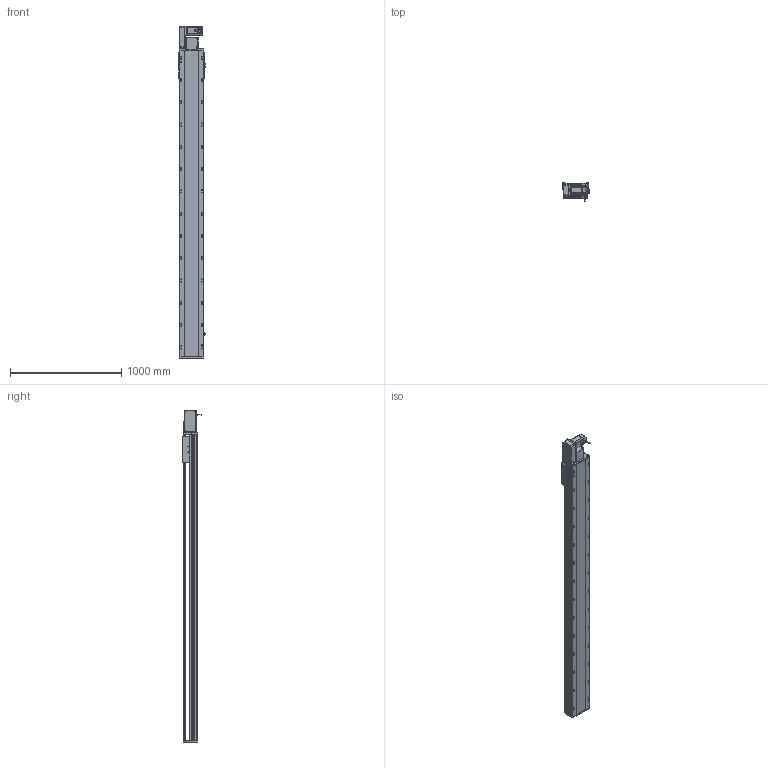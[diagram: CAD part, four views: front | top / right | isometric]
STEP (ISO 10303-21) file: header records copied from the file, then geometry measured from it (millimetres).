
FILE_DESCRIPTION (( 'STEP AP214' ), '1' );
FILE_NAME ('RTB22S-XX-2400-L-M75-C4.STEP', '2025-12-12T03:27:00', ( '' ), ( '' ), 'SwSTEP 2.0', 'SolidWorks 2018', '' );
FILE_SCHEMA (( 'AUTOMOTIVE_DESIGN' ));
Length unit declared in the file: millimetre
Products named in the file (14): RTB22S-GY-008-M75--萇儂啣^RTB22S-L-々湍釱蚾饜_RTB22S-XX-XX-L-M75-C4; RTH22-GY-013外置感应片^RTB22S-XX-XX-L-M75-C4; RTB22S-L-011菁釱^RTB22S-XX-XX-L-M75-C4; 750W萇儂^RTB22S-XX-XX-L-M75-C4; RTB22S-GY-018P^RTB22S-L-々湍釱蚾饜_RTB22S-XX-XX-L-M75-C4; RTB22S-L-004賑釱^RTB22S-XX-XX-L-M75-C4; RTB22S-L-々湍釱蚾饜^RTB22S-XX-XX-L-M75-C4; RTB22S-XX-2400-L-M75-C4; RTB22S-GY-005P^RTB22S-L-々湍釱蚾饜_RTB22S-XX-XX-L-M75-C4; OMRON EE-SX672 传感器^RTB22S-XX-XX-L-M75-C4; RTB22S-GY-007奻裔^RTB22S-XX-XX-L-M75-C4; RTB22S-GY-001耜裔^RTB22S-XX-XX-L-M75-C4; RTB22S-GY-014--々湍釱^RTB22S-L-々湍釱蚾饜_RTB22S-XX-XX-L-M75-C4; RTB22S-GY-017P^RTB22S-L-々湍釱蚾饜_RTB22S-XX-XX-L-M75-C4
Assembly tree (16 placements, depth 3):
  RTB22S-XX-2400-L-M75-C4
    RTB22S-L-011菁釱^RTB22S-XX-XX-L-M75-C4
    750W萇儂^RTB22S-XX-XX-L-M75-C4
    RTB22S-L-004賑釱^RTB22S-XX-XX-L-M75-C4
    OMRON EE-SX672 传感器^RTB22S-XX-XX-L-M75-C4  x3
    RTH22-GY-013外置感应片^RTB22S-XX-XX-L-M75-C4
    RTB22S-GY-007奻裔^RTB22S-XX-XX-L-M75-C4
    RTB22S-GY-001耜裔^RTB22S-XX-XX-L-M75-C4
    RTB22S-L-々湍釱蚾饜^RTB22S-XX-XX-L-M75-C4
      RTB22S-GY-014--々湍釱^RTB22S-L-々湍釱蚾饜_RTB22S-XX-XX-L-M75-C4
      RTB22S-GY-017P^RTB22S-L-々湍釱蚾饜_RTB22S-XX-XX-L-M75-C4  x2
      RTB22S-GY-005P^RTB22S-L-々湍釱蚾饜_RTB22S-XX-XX-L-M75-C4
      RTB22S-GY-008-M75--萇儂啣^RTB22S-L-々湍釱蚾饜_RTB22S-XX-XX-L-M75-C4
      RTB22S-GY-018P^RTB22S-L-々湍釱蚾饜_RTB22S-XX-XX-L-M75-C4
Bounding box: 238.5 x 162.7 x 2979 mm (x, y, z)
Volume: 37602862.9 mm3; surface area: 3846181.1 mm2
Topology: 15 solids, 15 shells, 2091 faces, 5686 edges, 3632 vertices
Faces by surface type: plane 927, cylinder 694, bspline 296, cone 162, sphere 8, torus 4
Entity records: 56716 total; most frequent: CARTESIAN_POINT 16060, ORIENTED_EDGE 8112, DIRECTION 7910, EDGE_CURVE 4056, AXIS2_PLACEMENT_3D 2830, VERTEX_POINT 2636, VECTOR 2250, LINE 2250
